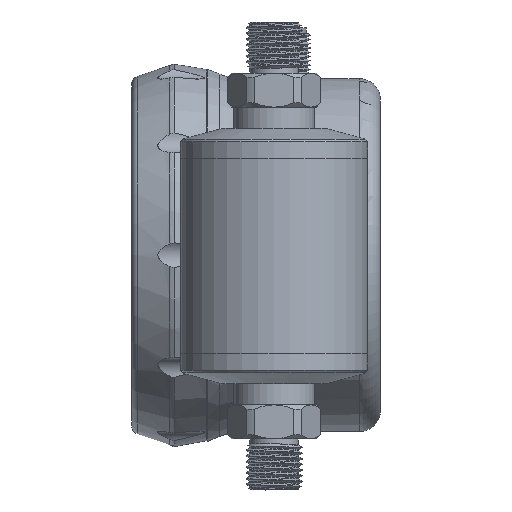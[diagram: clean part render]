
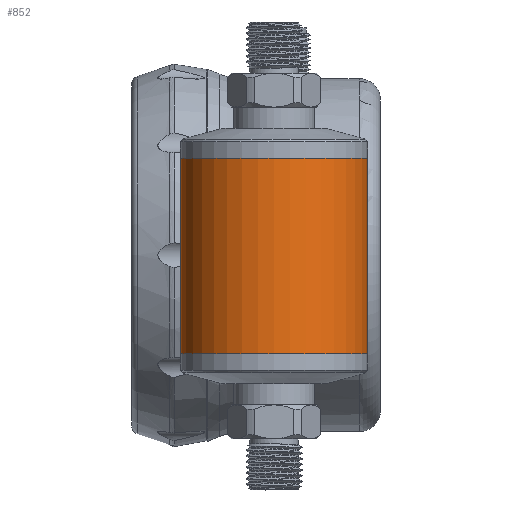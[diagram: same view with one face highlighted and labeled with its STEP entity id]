
A CAD part, front view. The second image highlights one B-rep face of the part: STEP entity #852.
In plain terms, the highlighted cylindrical face has radius 22 mm (diameter 44 mm), a full revolution.
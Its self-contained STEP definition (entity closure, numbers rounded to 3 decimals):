
#295=LINE('',#5248,#368);
#296=LINE('',#5253,#369);
#368=VECTOR('',#4200,1.);
#369=VECTOR('',#4203,1.);
#443=FACE_BOUND('',#1370,.T.);
#444=FACE_BOUND('',#1371,.T.);
#445=FACE_BOUND('',#1372,.T.);
#606=CIRCLE('',#3723,22.);
#607=CIRCLE('',#3725,22.);
#852=ADVANCED_FACE('',(#443,#444,#445),#1098,.T.);
#1098=CYLINDRICAL_SURFACE('',#3727,22.);
#1370=EDGE_LOOP('',(#1712,#1713,#1714,#1715));
#1371=EDGE_LOOP('',(#1716));
#1372=EDGE_LOOP('',(#1717));
#1712=ORIENTED_EDGE('',*,*,#3041,.F.);
#1713=ORIENTED_EDGE('',*,*,#3045,.F.);
#1714=ORIENTED_EDGE('',*,*,#3043,.F.);
#1715=ORIENTED_EDGE('',*,*,#3046,.F.);
#1716=ORIENTED_EDGE('',*,*,#3047,.F.);
#1717=ORIENTED_EDGE('',*,*,#3048,.T.);
#2694=VERTEX_POINT('',#5249);
#2695=VERTEX_POINT('',#5250);
#2696=VERTEX_POINT('',#5252);
#2697=VERTEX_POINT('',#5254);
#2698=VERTEX_POINT('',#5280);
#2699=VERTEX_POINT('',#5283);
#3041=EDGE_CURVE('',#2694,#2695,#295,.T.);
#3043=EDGE_CURVE('',#2696,#2697,#296,.T.);
#3045=EDGE_CURVE('',#2697,#2694,#3536,.T.);
#3046=EDGE_CURVE('',#2695,#2696,#3537,.T.);
#3047=EDGE_CURVE('',#2698,#2698,#606,.T.);
#3048=EDGE_CURVE('',#2699,#2699,#607,.T.);
#3536=B_SPLINE_CURVE_WITH_KNOTS('',3,(#5257,#5258,#5259,#5260,#5261,#5262,
#5263,#5264,#5265,#5266),.UNSPECIFIED.,.F.,.F.,(4,2,2,2,4),(0.,0.25,0.5,
0.75,1.),.UNSPECIFIED.);
#3537=B_SPLINE_CURVE_WITH_KNOTS('',3,(#5268,#5269,#5270,#5271,#5272,#5273,
#5274,#5275,#5276,#5277),.UNSPECIFIED.,.F.,.F.,(4,2,2,2,4),(0.,0.25,0.5,
0.75,1.),.UNSPECIFIED.);
#3723=AXIS2_PLACEMENT_3D('',#5279,#4212,#4213);
#3725=AXIS2_PLACEMENT_3D('',#5282,#4216,#4217);
#3727=AXIS2_PLACEMENT_3D('',#5285,#4220,#4221);
#4200=DIRECTION('',(0.,0.,-1.));
#4203=DIRECTION('',(0.,0.,1.));
#4212=DIRECTION('',(0.,0.,1.));
#4213=DIRECTION('',(1.,0.,0.));
#4216=DIRECTION('',(0.,0.,1.));
#4217=DIRECTION('',(1.,0.,0.));
#4220=DIRECTION('',(0.,0.,-1.));
#4221=DIRECTION('',(1.,0.,0.));
#5248=CARTESIAN_POINT('',(62.165,26.5,17.));
#5249=CARTESIAN_POINT('',(62.165,26.5,9.96));
#5250=CARTESIAN_POINT('',(62.165,26.5,-9.96));
#5252=CARTESIAN_POINT('',(43.835,26.5,-9.96));
#5253=CARTESIAN_POINT('',(43.835,26.5,17.));
#5254=CARTESIAN_POINT('',(43.835,26.5,9.96));
#5257=CARTESIAN_POINT('',(43.835,26.5,9.96));
#5258=CARTESIAN_POINT('',(44.833,26.958,11.501));
#5259=CARTESIAN_POINT('',(46.103,27.453,12.873));
#5260=CARTESIAN_POINT('',(49.236,28.236,14.912));
#5261=CARTESIAN_POINT('',(51.081,28.5,15.535));
#5262=CARTESIAN_POINT('',(54.915,28.5,15.536));
#5263=CARTESIAN_POINT('',(56.764,28.236,14.913));
#5264=CARTESIAN_POINT('',(59.899,27.453,12.871));
#5265=CARTESIAN_POINT('',(61.166,26.958,11.502));
#5266=CARTESIAN_POINT('',(62.165,26.5,9.96));
#5268=CARTESIAN_POINT('',(62.165,26.5,-9.96));
#5269=CARTESIAN_POINT('',(61.167,26.958,-11.501));
#5270=CARTESIAN_POINT('',(59.897,27.453,-12.873));
#5271=CARTESIAN_POINT('',(56.764,28.236,-14.912));
#5272=CARTESIAN_POINT('',(54.919,28.5,-15.535));
#5273=CARTESIAN_POINT('',(51.085,28.5,-15.536));
#5274=CARTESIAN_POINT('',(49.236,28.236,-14.913));
#5275=CARTESIAN_POINT('',(46.101,27.453,-12.871));
#5276=CARTESIAN_POINT('',(44.834,26.958,-11.502));
#5277=CARTESIAN_POINT('',(43.835,26.5,-9.96));
#5279=CARTESIAN_POINT('',(53.,6.5,23.));
#5280=CARTESIAN_POINT('',(75.,6.5,23.));
#5282=CARTESIAN_POINT('',(53.,6.5,-23.));
#5283=CARTESIAN_POINT('',(75.,6.5,-23.));
#5285=CARTESIAN_POINT('',(53.,6.5,17.));
